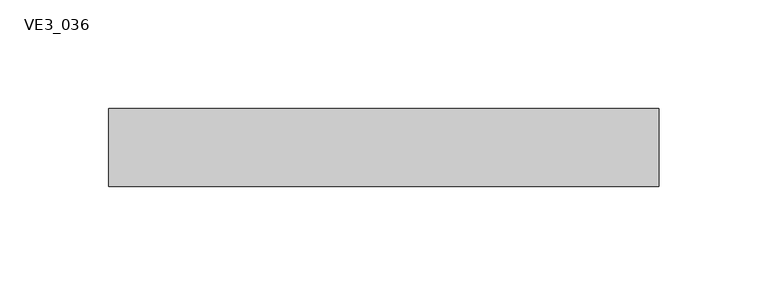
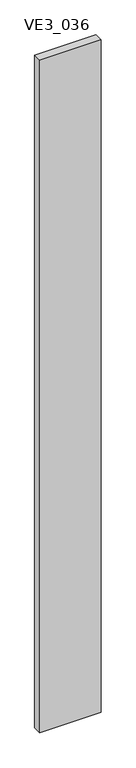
"""IFC4 building model written with IfcOpenShell, lengths in millimetres: plate geometry, TRP_CP_ARC_PF_RE_SE : VE3_036."""

from ifc_helpers import new_model, si_unit, frame, origin, place, context, project, spatial, polyline, outline, extrude, source, transform, mapped, element, save


def ve3_036_397baf72(model_context):
    return source(origin(), model_context, "Body", "SweptSolid", [
        extrude(outline(polyline([(126.8053861, 18.0), (126.8053861, -18.0), (-126.8053861, -18.0), (-126.8053861, 18.0), (126.8053861, 18.0)])), frame((0.0, 0.0, -3.1739529), z_axis=(0.0, 0.0, 1.0), x_axis=(1.0, 0.0, 0.0)), (0.0, 0.0, 1.0), 2933.1739529),
    ])


if __name__ == "__main__":
    model = new_model("IFC4")
    model_context = context("Model", 3, world=origin())
    ifc_project = project(units=[si_unit("LENGTHUNIT", "METRE", prefix="MILLI")], contexts=[model_context])
    site = spatial("IfcSite", under=ifc_project)
    building = spatial("IfcBuilding", under=site)
    placement = place(None, origin())
    ve3_036_shape = ve3_036_397baf72(model_context)
    element("IfcPlate", 1, ObjectType="TRP_CP_ARC_PF_RE_SE : VE3_036", at=placement, inside=building, context=model_context, shape_type="MappedRepresentation", body=[
        mapped(ve3_036_shape, transform((0.0, 0.0, 0.0), x_axis=(1.0, 0.0, 0.0), y_axis=(0.0, 1.0, 0.0), z_axis=(0.0, 0.0, 1.0))),
    ])
    save(model, "model.ifc")
